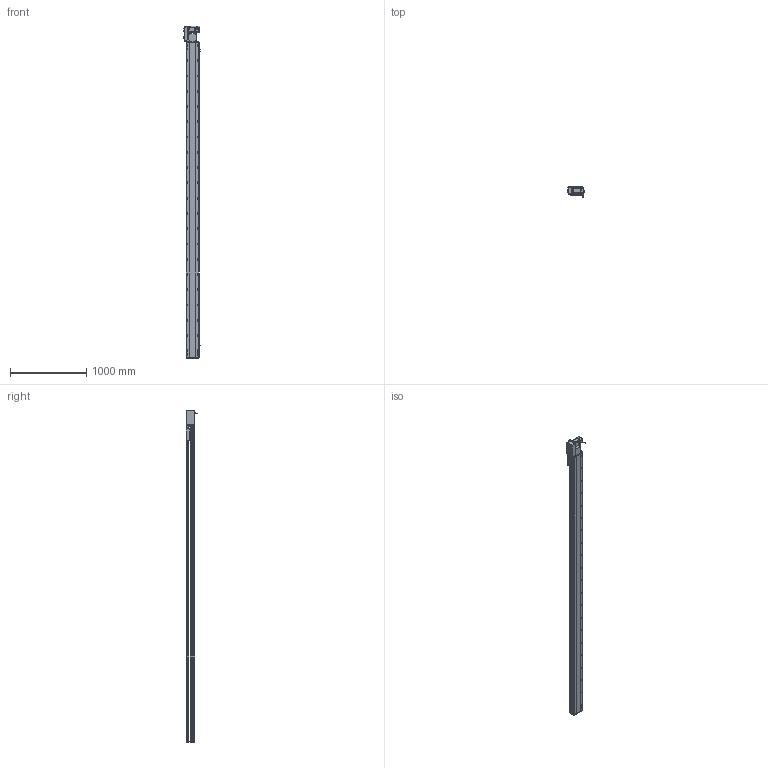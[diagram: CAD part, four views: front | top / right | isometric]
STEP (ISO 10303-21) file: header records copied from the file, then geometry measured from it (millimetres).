
FILE_DESCRIPTION (( 'STEP AP214' ), '1' );
FILE_NAME ('RTB17S-XX-3850-L-M75-C4.STEP', '2025-12-12T00:29:59', ( '' ), ( '' ), 'SwSTEP 2.0', 'SolidWorks 2018', '' );
FILE_SCHEMA (( 'AUTOMOTIVE_DESIGN' ));
Length unit declared in the file: millimetre
Products named in the file (15): 750W萇儂^RTB17S-XX-XX-L-M75-C4; RTH13-BL-012覜茼え俋离^RTB17S-賑釱_RTB17S-XX-XX-L-M75-C4; RTB22S-GY-005P^RTB17S-L-々湍釱蚾饜-750W_RTB17S-XX-XX-L-M75-C4; RTB17-R-011菁釱^RTB17S-XX-XX-L-M75-C4; RTB17S-L-々湍釱蚾饜-750W^RTB17S-XX-XX-L-M75-C4; RTB17S-L-007奻裔^RTB17S-XX-XX-L-M75-C4; RTB17S-L-004-賑釱^RTB17S-賑釱_RTB17S-XX-XX-L-M75-C4; RTB17S-L-001-耜醱啣^RTB17S-XX-XX-L-M75-C4; RTB17S-XX-3850-L-M75-C4; RTB22S-GY-018P^RTB17S-L-々湍釱蚾饜-750W_RTB17S-XX-XX-L-M75-C4; RMP17S-L-014-T20-P75--々湍釱^RTB17S-L-々湍釱蚾饜-750W_RTB17S-XX-XX-L-M75-C4; RTB17S-賑釱^RTB17S-XX-XX-L-M75-C4; EE672^RTB17S-XX-XX-L-M75-C4; RTB22S-GY-008-M75--萇儂啣^RTB17S-L-々湍釱蚾饜-750W_RTB17S-XX-XX-L-M75-C4; RTB22S-GY-017P^RTB17S-L-々湍釱蚾饜-750W_RTB17S-XX-XX-L-M75-C4
Assembly tree (17 placements, depth 3):
  RTB17S-XX-3850-L-M75-C4
    RTB17-R-011菁釱^RTB17S-XX-XX-L-M75-C4
    EE672^RTB17S-XX-XX-L-M75-C4  x3
    RTB17S-L-001-耜醱啣^RTB17S-XX-XX-L-M75-C4
    RTB17S-賑釱^RTB17S-XX-XX-L-M75-C4
      RTB17S-L-004-賑釱^RTB17S-賑釱_RTB17S-XX-XX-L-M75-C4
      RTH13-BL-012覜茼え俋离^RTB17S-賑釱_RTB17S-XX-XX-L-M75-C4
    RTB17S-L-007奻裔^RTB17S-XX-XX-L-M75-C4
    750W萇儂^RTB17S-XX-XX-L-M75-C4
    RTB17S-L-々湍釱蚾饜-750W^RTB17S-XX-XX-L-M75-C4
      RMP17S-L-014-T20-P75--々湍釱^RTB17S-L-々湍釱蚾饜-750W_RTB17S-XX-XX-L-M75-C4
      RTB22S-GY-005P^RTB17S-L-々湍釱蚾饜-750W_RTB17S-XX-XX-L-M75-C4
      RTB22S-GY-017P^RTB17S-L-々湍釱蚾饜-750W_RTB17S-XX-XX-L-M75-C4  x2
      RTB22S-GY-008-M75--萇儂啣^RTB17S-L-々湍釱蚾饜-750W_RTB17S-XX-XX-L-M75-C4
      RTB22S-GY-018P^RTB17S-L-々湍釱蚾饜-750W_RTB17S-XX-XX-L-M75-C4
Bounding box: 210.4 x 152.7 x 4349 mm (x, y, z)
Volume: 30011699.6 mm3; surface area: 5573456 mm2
Topology: 17 solids, 17 shells, 2329 faces, 6592 edges, 4274 vertices
Faces by surface type: plane 1000, cylinder 913, bspline 294, cone 110, sphere 8, torus 4
Entity records: 69622 total; most frequent: CARTESIAN_POINT 20856, ORIENTED_EDGE 10028, DIRECTION 9212, EDGE_CURVE 5014, AXIS2_PLACEMENT_3D 3294, VERTEX_POINT 3278, VECTOR 2624, LINE 2624
